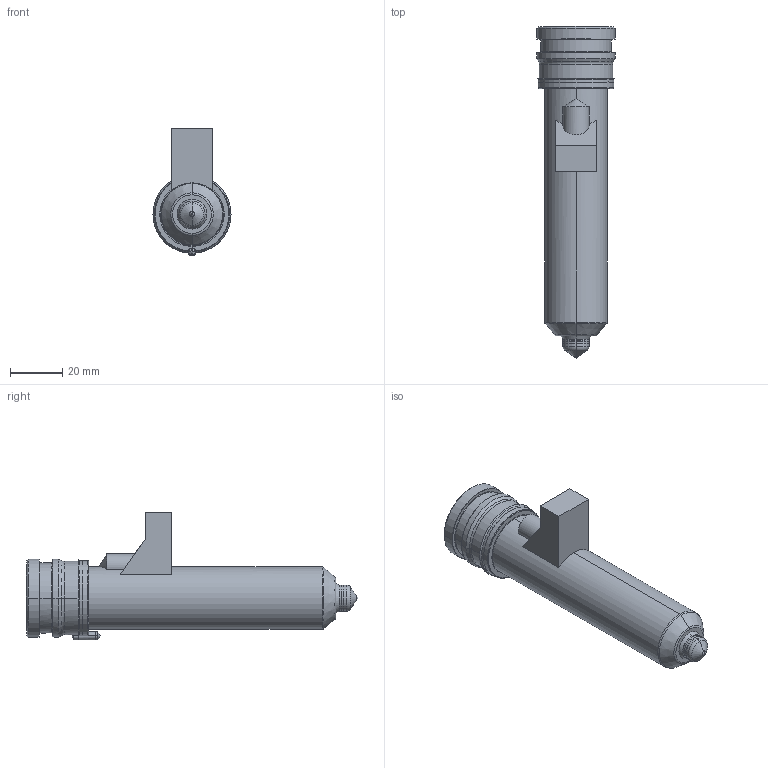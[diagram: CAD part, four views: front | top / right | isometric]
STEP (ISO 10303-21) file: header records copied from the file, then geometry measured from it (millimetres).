
FILE_DESCRIPTION((''),'2;1');
FILE_NAME('MPN-10-29-TX10-106-M','2026-02-05T12:51:07',('UPTIO'),('Thermoplay S.p.A.'),'CREO PARAMETRIC BY PTC INC, 2023494','CREO PARAMETRIC BY PTC INC, 2023494','');
FILE_SCHEMA(('CONFIG_CONTROL_DESIGN','SHAPE_APPEARANCE_LAYERS_GROUPS'));
Length unit declared in the file: millimetre
Products named in the file (1): MPN-10-29-TX10-106-M
Bounding box: 30 x 127.5 x 49 mm (x, y, z)
Volume: 40173.2 mm3; surface area: 41178.6 mm2
Topology: 3 solids, 5 shells, 541 faces, 1383 edges, 844 vertices
Faces by surface type: cylinder 177, plane 146, bspline 73, torus 67, cone 64, sphere 10, extrusion 4
Entity records: 27140 total; most frequent: CARTESIAN_POINT 11374, ORIENTED_EDGE 2748, DIRECTION 2568, EDGE_CURVE 1374, AXIS2_PLACEMENT_3D 1017, VERTEX_POINT 844, EDGE_LOOP 570, CIRCLE 552
